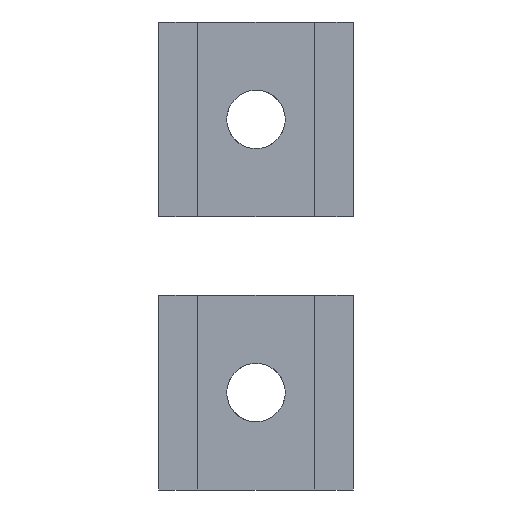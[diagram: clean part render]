
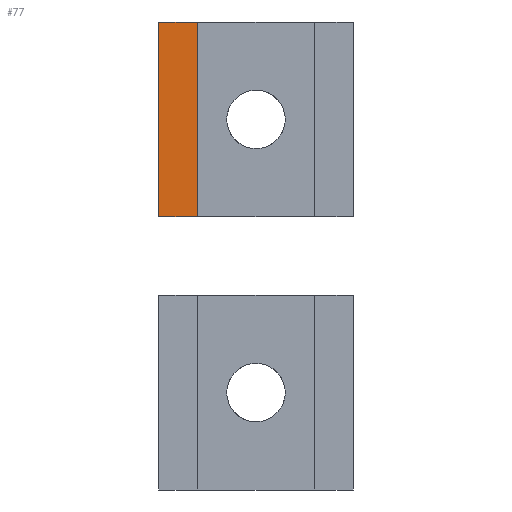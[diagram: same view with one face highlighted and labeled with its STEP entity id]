
A CAD part, left-side view. The second image highlights one B-rep face of the part: STEP entity #77.
In plain terms, the highlighted planar face has unit normal (-1, 0, 0) as drawn and (1, 0, 0) by its records, which use the part's own axes.
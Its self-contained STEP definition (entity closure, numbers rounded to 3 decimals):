
#77=ADVANCED_FACE('',(#113),#1245,.T.);
#113=FACE_OUTER_BOUND('',#151,.T.);
#151=EDGE_LOOP('',(#242,#243,#244,#245));
#242=ORIENTED_EDGE('',*,*,#860,.T.);
#243=ORIENTED_EDGE('',*,*,#861,.T.);
#244=ORIENTED_EDGE('',*,*,#862,.T.);
#245=ORIENTED_EDGE('',*,*,#857,.F.);
#437=PCURVE('',#1244,#617);
#440=PCURVE('',#1245,#620);
#441=PCURVE('',#1245,#621);
#442=PCURVE('',#1245,#622);
#443=PCURVE('',#1245,#623);
#447=PCURVE('',#1246,#627);
#478=PCURVE('',#1252,#658);
#481=PCURVE('',#1253,#661);
#617=DEFINITIONAL_REPRESENTATION('',(#1003),#2290);
#620=DEFINITIONAL_REPRESENTATION('',(#1009),#2290);
#621=DEFINITIONAL_REPRESENTATION('',(#1011),#2290);
#622=DEFINITIONAL_REPRESENTATION('',(#1013),#2290);
#623=DEFINITIONAL_REPRESENTATION('',(#1014),#2290);
#627=DEFINITIONAL_REPRESENTATION('',(#1021),#2290);
#658=DEFINITIONAL_REPRESENTATION('',(#1066),#2290);
#661=DEFINITIONAL_REPRESENTATION('',(#1069),#2290);
#767=SURFACE_CURVE('',#1002,(#437,#443),.PCURVE_S1.);
#770=SURFACE_CURVE('',#1008,(#440,#478),.PCURVE_S1.);
#771=SURFACE_CURVE('',#1010,(#441,#447),.PCURVE_S1.);
#772=SURFACE_CURVE('',#1012,(#442,#481),.PCURVE_S1.);
#857=EDGE_CURVE('',#1189,#1190,#767,.T.);
#860=EDGE_CURVE('',#1189,#1192,#770,.T.);
#861=EDGE_CURVE('',#1192,#1193,#771,.T.);
#862=EDGE_CURVE('',#1193,#1190,#772,.T.);
#1002=B_SPLINE_CURVE_WITH_KNOTS('',1,(#1756,#1757),.UNSPECIFIED.,.F.,.F.,
(2,2),(0.,10.),.UNSPECIFIED.);
#1003=B_SPLINE_CURVE_WITH_KNOTS('',1,(#1758,#1759),.UNSPECIFIED.,.F.,.F.,
(2,2),(0.,10.),.UNSPECIFIED.);
#1008=B_SPLINE_CURVE_WITH_KNOTS('',1,(#1768,#1769),.UNSPECIFIED.,.F.,.F.,
(2,2),(-25.211,-23.211),.UNSPECIFIED.);
#1009=B_SPLINE_CURVE_WITH_KNOTS('',1,(#1770,#1771),.UNSPECIFIED.,.F.,.F.,
(2,2),(-25.211,-23.211),.UNSPECIFIED.);
#1010=B_SPLINE_CURVE_WITH_KNOTS('',1,(#1772,#1773),.UNSPECIFIED.,.F.,.F.,
(2,2),(0.,10.),.UNSPECIFIED.);
#1011=B_SPLINE_CURVE_WITH_KNOTS('',1,(#1774,#1775),.UNSPECIFIED.,.F.,.F.,
(2,2),(0.,10.),.UNSPECIFIED.);
#1012=B_SPLINE_CURVE_WITH_KNOTS('',1,(#1776,#1777),.UNSPECIFIED.,.F.,.F.,
(2,2),(23.211,25.211),.UNSPECIFIED.);
#1013=B_SPLINE_CURVE_WITH_KNOTS('',1,(#1778,#1779),.UNSPECIFIED.,.F.,.F.,
(2,2),(23.211,25.211),.UNSPECIFIED.);
#1014=B_SPLINE_CURVE_WITH_KNOTS('',1,(#1780,#1781),.UNSPECIFIED.,.F.,.F.,
(2,2),(0.,10.),.UNSPECIFIED.);
#1021=B_SPLINE_CURVE_WITH_KNOTS('',1,(#1794,#1795),.UNSPECIFIED.,.F.,.F.,
(2,2),(0.,10.),.UNSPECIFIED.);
#1066=B_SPLINE_CURVE_WITH_KNOTS('',1,(#1948,#1949),.UNSPECIFIED.,.F.,.F.,
(2,2),(-25.211,-23.211),.UNSPECIFIED.);
#1069=B_SPLINE_CURVE_WITH_KNOTS('',1,(#1954,#1955),.UNSPECIFIED.,.F.,.F.,
(2,2),(23.211,25.211),.UNSPECIFIED.);
#1189=VERTEX_POINT('',#1733);
#1190=VERTEX_POINT('',#1734);
#1192=VERTEX_POINT('',#1736);
#1193=VERTEX_POINT('',#1737);
#1244=PLANE('',#1319);
#1245=PLANE('',#1320);
#1246=PLANE('',#1321);
#1252=PLANE('',#1327);
#1253=PLANE('',#1328);
#1319=AXIS2_PLACEMENT_3D('',#1686,#1359,$);
#1320=AXIS2_PLACEMENT_3D('',#1687,#1360,$);
#1321=AXIS2_PLACEMENT_3D('',#1688,#1361,$);
#1327=AXIS2_PLACEMENT_3D('',#1694,#1367,$);
#1328=AXIS2_PLACEMENT_3D('',#1695,#1368,$);
#1359=DIRECTION('',(0.,-1.,0.));
#1360=DIRECTION('',(1.,0.,0.));
#1361=DIRECTION('',(-0.496,-0.868,0.));
#1367=DIRECTION('',(0.,0.,1.));
#1368=DIRECTION('',(0.,0.,-1.));
#1686=CARTESIAN_POINT('',(-489.,23.,12.017));
#1687=CARTESIAN_POINT('',(-488.,23.,12.017));
#1688=CARTESIAN_POINT('',(-488.,25.,12.017));
#1694=CARTESIAN_POINT('',(-483.938,13.75,12.017));
#1695=CARTESIAN_POINT('',(-483.938,13.75,22.017));
#1733=CARTESIAN_POINT('',(-488.,23.,12.017));
#1734=CARTESIAN_POINT('',(-488.,23.,22.017));
#1736=CARTESIAN_POINT('',(-488.,25.,12.017));
#1737=CARTESIAN_POINT('',(-488.,25.,22.017));
#1756=CARTESIAN_POINT('',(-488.,23.,12.017));
#1757=CARTESIAN_POINT('',(-488.,23.,22.017));
#1758=CARTESIAN_POINT('',(-25.211,0.));
#1759=CARTESIAN_POINT('',(-25.211,10.));
#1768=CARTESIAN_POINT('',(-488.,23.,12.017));
#1769=CARTESIAN_POINT('',(-488.,25.,12.017));
#1770=CARTESIAN_POINT('',(-25.211,0.));
#1771=CARTESIAN_POINT('',(-23.211,0.));
#1772=CARTESIAN_POINT('',(-488.,25.,12.017));
#1773=CARTESIAN_POINT('',(-488.,25.,22.017));
#1774=CARTESIAN_POINT('',(-23.211,0.));
#1775=CARTESIAN_POINT('',(-23.211,10.));
#1776=CARTESIAN_POINT('',(-488.,25.,22.017));
#1777=CARTESIAN_POINT('',(-488.,23.,22.017));
#1778=CARTESIAN_POINT('',(-23.211,10.));
#1779=CARTESIAN_POINT('',(-25.211,10.));
#1780=CARTESIAN_POINT('',(-25.211,0.));
#1781=CARTESIAN_POINT('',(-25.211,10.));
#1794=CARTESIAN_POINT('',(-23.211,0.));
#1795=CARTESIAN_POINT('',(-23.211,10.));
#1948=CARTESIAN_POINT('',(0.,-1.));
#1949=CARTESIAN_POINT('',(2.,-1.));
#1954=CARTESIAN_POINT('',(-1.,2.));
#1955=CARTESIAN_POINT('',(-1.,0.));
#2290=(
GEOMETRIC_REPRESENTATION_CONTEXT(2)
PARAMETRIC_REPRESENTATION_CONTEXT()
REPRESENTATION_CONTEXT('pspace','')
);
